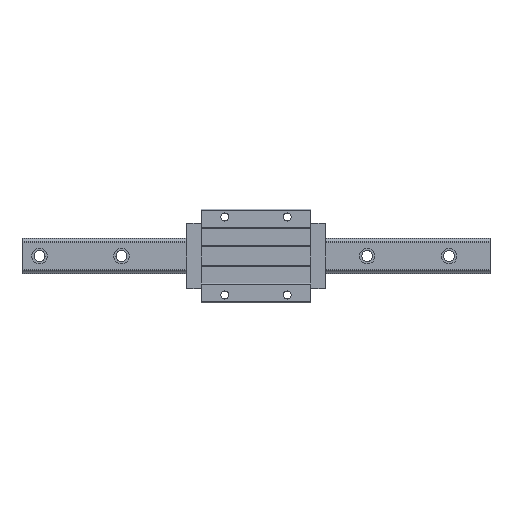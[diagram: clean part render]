
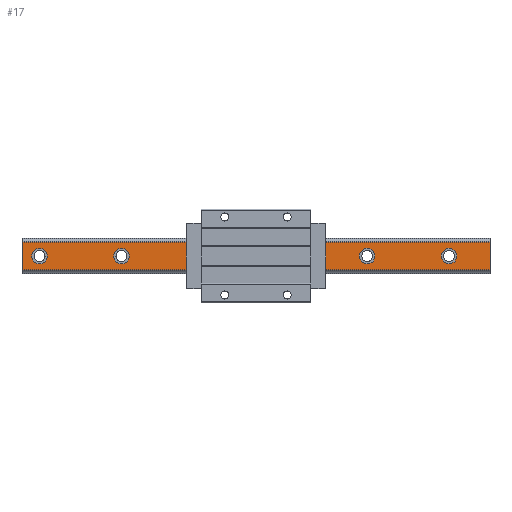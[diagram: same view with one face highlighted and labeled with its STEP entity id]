
A CAD part, top view. The second image highlights one B-rep face of the part: STEP entity #17.
In plain terms, the highlighted planar face has unit normal (0, 0, 1).
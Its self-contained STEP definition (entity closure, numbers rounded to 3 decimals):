
#17 = ADVANCED_FACE ( 'NONE', ( #4733, #1928, #4208, #6478, #4943, #2738, #1019 ), #917, .F. ) ;
#58 = CIRCLE ( 'NONE', #6125, 10. ) ;
#104 = DIRECTION ( 'NONE',  ( -1., 0., 0. ) ) ;
#148 = EDGE_CURVE ( 'NONE', #2291, #1147, #58, .T. ) ;
#217 = EDGE_CURVE ( 'NONE', #7094, #5775, #1120, .T. ) ;
#264 = ORIENTED_EDGE ( 'NONE', *, *, #148, .F. ) ;
#311 = VERTEX_POINT ( 'NONE', #946 ) ;
#405 = ORIENTED_EDGE ( 'NONE', *, *, #6786, .F. ) ;
#440 = CARTESIAN_POINT ( 'NONE',  ( 132.5, 0., 32. ) ) ;
#456 = DIRECTION ( 'NONE',  ( 1., 0., 0. ) ) ;
#458 = CARTESIAN_POINT ( 'NONE',  ( 37.5, 0., 32. ) ) ;
#466 = AXIS2_PLACEMENT_3D ( 'NONE', #2496, #3503, #4780 ) ;
#489 = EDGE_LOOP ( 'NONE', ( #2926, #2274 ) ) ;
#541 = CIRCLE ( 'NONE', #6618, 10. ) ;
#596 = EDGE_LOOP ( 'NONE', ( #6596, #6197 ) ) ;
#611 = CARTESIAN_POINT ( 'NONE',  ( -267.5, 0., 32. ) ) ;
#634 = CIRCLE ( 'NONE', #2412, 10. ) ;
#639 = CARTESIAN_POINT ( 'NONE',  ( -162.5, 0., 32. ) ) ;
#643 = CARTESIAN_POINT ( 'NONE',  ( 237.5, 0., 32. ) ) ;
#722 = CARTESIAN_POINT ( 'NONE',  ( -57.5, 0., 32. ) ) ;
#787 = VERTEX_POINT ( 'NONE', #1100 ) ;
#809 = CARTESIAN_POINT ( 'NONE',  ( -67.5, 0., 32. ) ) ;
#866 = DIRECTION ( 'NONE',  ( 1., 0., 0. ) ) ;
#893 = CARTESIAN_POINT ( 'NONE',  ( 142.5, 0., 32. ) ) ;
#917 = PLANE ( 'NONE',  #6641 ) ;
#946 = CARTESIAN_POINT ( 'NONE',  ( -300., -17.738, 32. ) ) ;
#951 = EDGE_CURVE ( 'NONE', #2943, #311, #7051, .T. ) ;
#1019 = FACE_OUTER_BOUND ( 'NONE', #1932, .T. ) ;
#1035 = EDGE_LOOP ( 'NONE', ( #2616, #6021 ) ) ;
#1100 = CARTESIAN_POINT ( 'NONE',  ( 27.5, 0., 32. ) ) ;
#1120 = CIRCLE ( 'NONE', #3625, 10. ) ;
#1147 = VERTEX_POINT ( 'NONE', #440 ) ;
#1198 = EDGE_CURVE ( 'NONE', #2080, #2943, #5804, .T. ) ;
#1295 = ORIENTED_EDGE ( 'NONE', *, *, #2636, .F. ) ;
#1328 = EDGE_CURVE ( 'NONE', #1956, #5175, #634, .T. ) ;
#1356 = VECTOR ( 'NONE', #3680, 1000. ) ;
#1480 = CIRCLE ( 'NONE', #1715, 10. ) ;
#1495 = DIRECTION ( 'NONE',  ( -1., 0., 0. ) ) ;
#1579 = EDGE_CURVE ( 'NONE', #787, #4106, #1480, .T. ) ;
#1629 = CARTESIAN_POINT ( 'NONE',  ( -172.5, 0., 32. ) ) ;
#1631 = CIRCLE ( 'NONE', #5806, 10. ) ;
#1708 = LINE ( 'NONE', #3352, #5072 ) ;
#1715 = AXIS2_PLACEMENT_3D ( 'NONE', #7371, #2249, #4530 ) ;
#1720 = EDGE_CURVE ( 'NONE', #5775, #7094, #7199, .T. ) ;
#1746 = EDGE_CURVE ( 'NONE', #2643, #5247, #3031, .T. ) ;
#1773 = CARTESIAN_POINT ( 'NONE',  ( 300., 17.738, 32. ) ) ;
#1822 = CARTESIAN_POINT ( 'NONE',  ( -300., 17.738, 32. ) ) ;
#1928 = FACE_BOUND ( 'NONE', #2266, .T. ) ;
#1932 = EDGE_LOOP ( 'NONE', ( #5494, #2585, #3947, #5150 ) ) ;
#1956 = VERTEX_POINT ( 'NONE', #2461 ) ;
#1984 = CARTESIAN_POINT ( 'NONE',  ( 300., 17.738, 32. ) ) ;
#2080 = VERTEX_POINT ( 'NONE', #1984 ) ;
#2119 = CIRCLE ( 'NONE', #6784, 10. ) ;
#2143 = CARTESIAN_POINT ( 'NONE',  ( 142.5, 0., 32. ) ) ;
#2249 = DIRECTION ( 'NONE',  ( 0., 0., 1. ) ) ;
#2258 = EDGE_CURVE ( 'NONE', #4106, #787, #541, .T. ) ;
#2266 = EDGE_LOOP ( 'NONE', ( #264, #1295 ) ) ;
#2274 = ORIENTED_EDGE ( 'NONE', *, *, #1579, .F. ) ;
#2291 = VERTEX_POINT ( 'NONE', #2799 ) ;
#2399 = DIRECTION ( 'NONE',  ( 0., 0., 1. ) ) ;
#2412 = AXIS2_PLACEMENT_3D ( 'NONE', #809, #2399, #3672 ) ;
#2461 = CARTESIAN_POINT ( 'NONE',  ( -77.5, 0., 32. ) ) ;
#2496 = CARTESIAN_POINT ( 'NONE',  ( -277.5, 0., 32. ) ) ;
#2585 = ORIENTED_EDGE ( 'NONE', *, *, #3768, .F. ) ;
#2616 = ORIENTED_EDGE ( 'NONE', *, *, #217, .F. ) ;
#2636 = EDGE_CURVE ( 'NONE', #1147, #2291, #5075, .T. ) ;
#2640 = CARTESIAN_POINT ( 'NONE',  ( 300., -17.738, 32. ) ) ;
#2643 = VERTEX_POINT ( 'NONE', #3693 ) ;
#2644 = DIRECTION ( 'NONE',  ( 0., 0., 1. ) ) ;
#2670 = VERTEX_POINT ( 'NONE', #6715 ) ;
#2738 = FACE_BOUND ( 'NONE', #5393, .T. ) ;
#2799 = CARTESIAN_POINT ( 'NONE',  ( 152.5, 0., 32. ) ) ;
#2926 = ORIENTED_EDGE ( 'NONE', *, *, #2258, .F. ) ;
#2943 = VERTEX_POINT ( 'NONE', #1822 ) ;
#2946 = AXIS2_PLACEMENT_3D ( 'NONE', #4973, #3736, #6578 ) ;
#3031 = CIRCLE ( 'NONE', #7086, 10. ) ;
#3093 = ORIENTED_EDGE ( 'NONE', *, *, #5207, .F. ) ;
#3109 = DIRECTION ( 'NONE',  ( 0., 0., 1. ) ) ;
#3296 = DIRECTION ( 'NONE',  ( 0., -1., 0. ) ) ;
#3352 = CARTESIAN_POINT ( 'NONE',  ( 300., -17.738, 32. ) ) ;
#3381 = AXIS2_PLACEMENT_3D ( 'NONE', #3700, #4965, #456 ) ;
#3475 = VERTEX_POINT ( 'NONE', #5461 ) ;
#3503 = DIRECTION ( 'NONE',  ( 0., 0., 1. ) ) ;
#3609 = VERTEX_POINT ( 'NONE', #611 ) ;
#3625 = AXIS2_PLACEMENT_3D ( 'NONE', #4794, #3109, #5840 ) ;
#3672 = DIRECTION ( 'NONE',  ( 1., 0., 0. ) ) ;
#3680 = DIRECTION ( 'NONE',  ( 0., -1., 0. ) ) ;
#3693 = CARTESIAN_POINT ( 'NONE',  ( -182.5, 0., 32. ) ) ;
#3700 = CARTESIAN_POINT ( 'NONE',  ( 247.5, 0., 32. ) ) ;
#3736 = DIRECTION ( 'NONE',  ( 0., 0., 1. ) ) ;
#3768 = EDGE_CURVE ( 'NONE', #2670, #311, #4226, .T. ) ;
#3789 = DIRECTION ( 'NONE',  ( 0., 0., -1. ) ) ;
#3872 = EDGE_CURVE ( 'NONE', #2080, #2670, #1708, .T. ) ;
#3947 = ORIENTED_EDGE ( 'NONE', *, *, #3872, .F. ) ;
#4106 = VERTEX_POINT ( 'NONE', #5336 ) ;
#4208 = FACE_BOUND ( 'NONE', #489, .T. ) ;
#4226 = LINE ( 'NONE', #2640, #5197 ) ;
#4375 = DIRECTION ( 'NONE',  ( 0., 0., 1. ) ) ;
#4430 = CARTESIAN_POINT ( 'NONE',  ( 300., -17.738, 32. ) ) ;
#4530 = DIRECTION ( 'NONE',  ( 1., 0., 0. ) ) ;
#4609 = DIRECTION ( 'NONE',  ( 0., 0., 1. ) ) ;
#4733 = FACE_BOUND ( 'NONE', #1035, .T. ) ;
#4780 = DIRECTION ( 'NONE',  ( 1., 0., 0. ) ) ;
#4794 = CARTESIAN_POINT ( 'NONE',  ( 247.5, 0., 32. ) ) ;
#4917 = EDGE_LOOP ( 'NONE', ( #405, #6212 ) ) ;
#4943 = FACE_BOUND ( 'NONE', #596, .T. ) ;
#4965 = DIRECTION ( 'NONE',  ( 0., 0., 1. ) ) ;
#4973 = CARTESIAN_POINT ( 'NONE',  ( -67.5, 0., 32. ) ) ;
#5072 = VECTOR ( 'NONE', #6269, 1000. ) ;
#5075 = CIRCLE ( 'NONE', #6265, 10. ) ;
#5150 = ORIENTED_EDGE ( 'NONE', *, *, #1198, .T. ) ;
#5175 = VERTEX_POINT ( 'NONE', #722 ) ;
#5197 = VECTOR ( 'NONE', #1495, 1000. ) ;
#5207 = EDGE_CURVE ( 'NONE', #3475, #3609, #7138, .T. ) ;
#5247 = VERTEX_POINT ( 'NONE', #639 ) ;
#5336 = CARTESIAN_POINT ( 'NONE',  ( 47.5, 0., 32. ) ) ;
#5393 = EDGE_LOOP ( 'NONE', ( #6424, #3093 ) ) ;
#5435 = EDGE_CURVE ( 'NONE', #5247, #2643, #2119, .T. ) ;
#5461 = CARTESIAN_POINT ( 'NONE',  ( -287.5, 0., 32. ) ) ;
#5494 = ORIENTED_EDGE ( 'NONE', *, *, #951, .T. ) ;
#5601 = DIRECTION ( 'NONE',  ( 1., 0., 0. ) ) ;
#5775 = VERTEX_POINT ( 'NONE', #643 ) ;
#5804 = LINE ( 'NONE', #1773, #6959 ) ;
#5806 = AXIS2_PLACEMENT_3D ( 'NONE', #7266, #4609, #6888 ) ;
#5840 = DIRECTION ( 'NONE',  ( 1., 0., 0. ) ) ;
#5897 = DIRECTION ( 'NONE',  ( 1., 0., 0. ) ) ;
#5976 = CARTESIAN_POINT ( 'NONE',  ( -172.5, 0., 32. ) ) ;
#6021 = ORIENTED_EDGE ( 'NONE', *, *, #1720, .F. ) ;
#6125 = AXIS2_PLACEMENT_3D ( 'NONE', #2143, #6848, #6247 ) ;
#6197 = ORIENTED_EDGE ( 'NONE', *, *, #1746, .F. ) ;
#6212 = ORIENTED_EDGE ( 'NONE', *, *, #1328, .F. ) ;
#6247 = DIRECTION ( 'NONE',  ( 1., 0., 0. ) ) ;
#6261 = DIRECTION ( 'NONE',  ( 1., 0., 0. ) ) ;
#6265 = AXIS2_PLACEMENT_3D ( 'NONE', #893, #4375, #5897 ) ;
#6269 = DIRECTION ( 'NONE',  ( 0., -1., 0. ) ) ;
#6412 = CARTESIAN_POINT ( 'NONE',  ( -300., -17.738, 32. ) ) ;
#6424 = ORIENTED_EDGE ( 'NONE', *, *, #6435, .F. ) ;
#6435 = EDGE_CURVE ( 'NONE', #3609, #3475, #1631, .T. ) ;
#6467 = CARTESIAN_POINT ( 'NONE',  ( 257.5, 0., 32. ) ) ;
#6478 = FACE_BOUND ( 'NONE', #4917, .T. ) ;
#6529 = CIRCLE ( 'NONE', #2946, 10. ) ;
#6578 = DIRECTION ( 'NONE',  ( 1., 0., 0. ) ) ;
#6596 = ORIENTED_EDGE ( 'NONE', *, *, #5435, .F. ) ;
#6618 = AXIS2_PLACEMENT_3D ( 'NONE', #458, #6804, #5601 ) ;
#6641 = AXIS2_PLACEMENT_3D ( 'NONE', #4430, #3789, #3296 ) ;
#6715 = CARTESIAN_POINT ( 'NONE',  ( 300., -17.738, 32. ) ) ;
#6784 = AXIS2_PLACEMENT_3D ( 'NONE', #1629, #6793, #6261 ) ;
#6786 = EDGE_CURVE ( 'NONE', #5175, #1956, #6529, .T. ) ;
#6793 = DIRECTION ( 'NONE',  ( 0., 0., 1. ) ) ;
#6804 = DIRECTION ( 'NONE',  ( 0., 0., 1. ) ) ;
#6848 = DIRECTION ( 'NONE',  ( 0., 0., 1. ) ) ;
#6888 = DIRECTION ( 'NONE',  ( 1., 0., 0. ) ) ;
#6959 = VECTOR ( 'NONE', #104, 1000. ) ;
#7051 = LINE ( 'NONE', #6412, #1356 ) ;
#7086 = AXIS2_PLACEMENT_3D ( 'NONE', #5976, #2644, #866 ) ;
#7094 = VERTEX_POINT ( 'NONE', #6467 ) ;
#7138 = CIRCLE ( 'NONE', #466, 10. ) ;
#7199 = CIRCLE ( 'NONE', #3381, 10. ) ;
#7266 = CARTESIAN_POINT ( 'NONE',  ( -277.5, 0., 32. ) ) ;
#7371 = CARTESIAN_POINT ( 'NONE',  ( 37.5, 0., 32. ) ) ;
